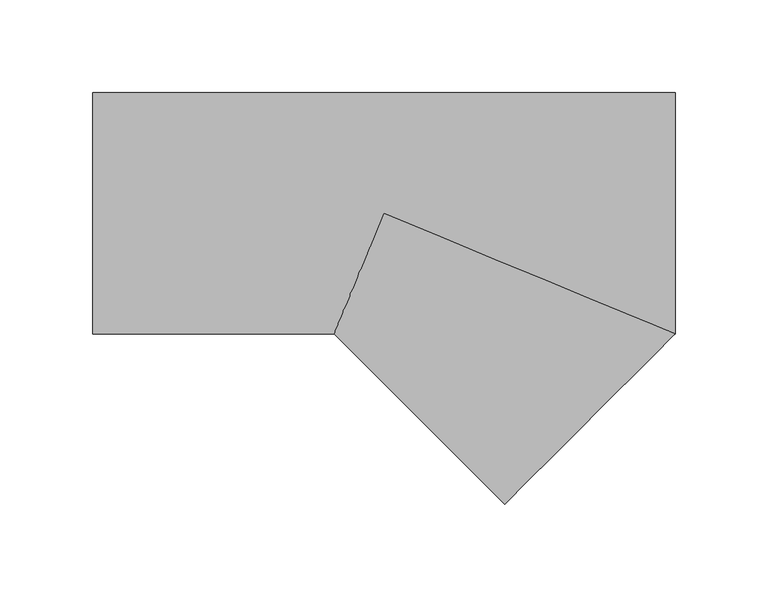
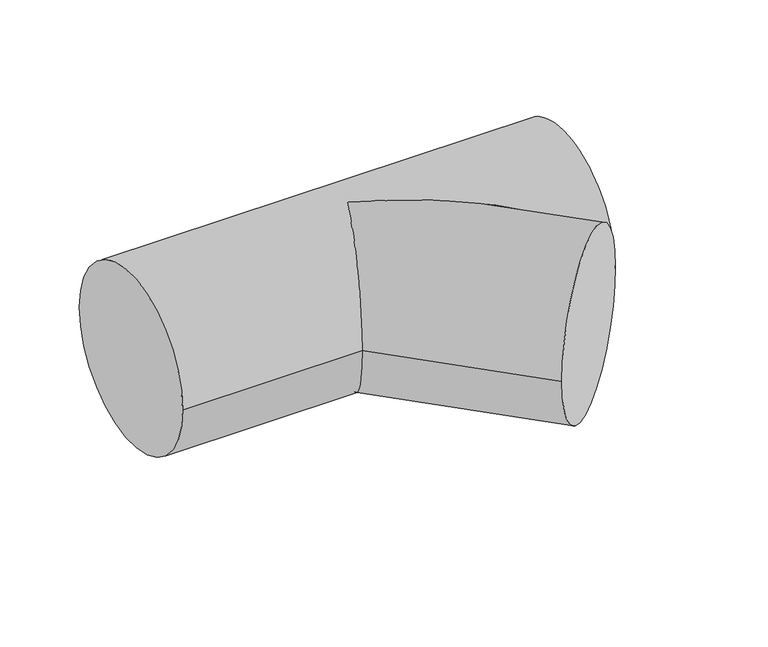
"""IFC4 building model written with IfcOpenShell, lengths in millimetres: pipe fitting geometry, M_Te - Genérica : Estándar."""

from ifc_helpers import new_model, si_unit, frame, origin, place, context, project, spatial, circle_curve, ellipse_curve, source, transform, mapped, element, save
from ifc_brep_helpers import plane_surface, cylinder_surface, advanced_brep


def pipe_fitting_a3851fe6(model_context):
    return source(origin(), model_context, "Body", "AdvancedBrep", [
        advanced_brep(
        [(-157.1351252, -65.0875, 0.0), (-157.1351252, 65.0875, 0.0), (157.1351252, -65.0875, 0.0), (157.1351252, 65.0875, 0.0), (-26.9601252, -65.0875, 0.0), (0.0, 0.0, 65.0875), (0.0, 0.0, -65.0875), (65.0875, -157.1351252, 0.0)],
        [
            (0, 1, circle_curve(frame((-157.1351252, 0.0, 0.0), z_axis=(-1.0, 0.0, 0.0), x_axis=(0.0, 1.0, 0.0)), 65.0875)),
            (1, 0, circle_curve(frame((-157.1351252, 0.0, 0.0), z_axis=(-1.0, 0.0, 0.0), x_axis=(0.0, 1.0, 0.0)), 65.0875)),
            (2, 3, circle_curve(frame((157.1351252, 0.0, 0.0), z_axis=(1.0, 0.0, 0.0), x_axis=(0.0, 1.0, 0.0)), 65.0875)),
            (3, 2, circle_curve(frame((157.1351252, 0.0, 0.0), z_axis=(1.0, 0.0, 0.0), x_axis=(0.0, 1.0, 0.0)), 65.0875)),
            (0, 4),
            (4, 5, ellipse_curve(frame((0.0, 0.0, 0.0), z_axis=(-0.9238795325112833, 0.38268343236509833, 0.0), x_axis=(-0.3826834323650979, -0.9238795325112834, 0.0)), 70.4502023, 65.0875)),
            (5, 2, ellipse_curve(frame((0.0, 0.0, 0.0), z_axis=(0.3826834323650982, 0.9238795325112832, 0.0), x_axis=(-0.9238795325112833, 0.3826834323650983, 0.0)), 170.081834, 65.0875)),
            (3, 1),
            (2, 6, ellipse_curve(frame((0.0, 0.0, 0.0), z_axis=(0.3826834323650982, 0.9238795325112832, 0.0), x_axis=(-0.9238795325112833, 0.3826834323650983, 0.0)), 170.081834, 65.0875)),
            (6, 4, ellipse_curve(frame((0.0, 0.0, 0.0), z_axis=(-0.9238795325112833, 0.38268343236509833, 0.0), x_axis=(-0.3826834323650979, -0.9238795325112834, 0.0)), 70.4502023, 65.0875)),
            (7, 2, circle_curve(frame((111.1113126, -111.1113126, 0.0), z_axis=(0.7071067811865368, -0.7071067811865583, 0.0), x_axis=(0.7071067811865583, 0.7071067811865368, 0.0)), 65.0875)),
            (2, 7, circle_curve(frame((111.1113126, -111.1113126, 0.0), z_axis=(0.7071067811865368, -0.7071067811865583, 0.0), x_axis=(0.7071067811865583, 0.7071067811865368, 0.0)), 65.0875)),
            (4, 7),
        ],
        [
            plane_surface(frame((-157.1351252, 0.0, 0.0), z_axis=(-1.0, 0.0, 0.0), x_axis=(0.0, 0.0, 1.0))),
            plane_surface(frame((157.1351252, 0.0, 0.0), z_axis=(1.0, 0.0, 0.0), x_axis=(0.0, 0.0, 1.0))),
            cylinder_surface(frame((-157.1351252, 0.0, 0.0), z_axis=(-1.0, 0.0, 0.0), x_axis=(0.0, 1.0, 0.0)), 65.0875),
            plane_surface(frame((111.1113126, -111.1113126, 0.0), z_axis=(0.7071067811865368, -0.7071067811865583, 0.0), x_axis=(0.0, 0.0, 1.0))),
            cylinder_surface(frame((0.0, 0.0, 0.0), z_axis=(-0.7071067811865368, 0.7071067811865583, 0.0), x_axis=(0.7071067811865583, 0.7071067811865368, 0.0)), 65.0875),
        ],
        [
            (0, [[1, 2]]),
            (1, [[3, 4]]),
            (2, [[-1, 5, 6, 7, -4, 8]]),
            (2, [[-2, -8, -3, 9, 10, -5]]),
            (3, [[11, 12]]),
            (4, [[-12, -7, -6, 13]]),
            (4, [[-11, -13, -10, -9]]),
        ],
    ),
    ])


if __name__ == "__main__":
    model = new_model("IFC4")
    model_context = context("Model", 3, world=origin())
    ifc_project = project(units=[si_unit("LENGTHUNIT", "METRE", prefix="MILLI")], contexts=[model_context])
    site = spatial("IfcSite", under=ifc_project)
    building = spatial("IfcBuilding", under=site)
    placement = place(None, origin())
    pipe_fitting_shape = pipe_fitting_a3851fe6(model_context)
    element("IfcPipeFitting", 1, ObjectType="M_Te - Genérica : Estándar", at=placement, inside=building, context=model_context, shape_type="MappedRepresentation", body=[
        mapped(pipe_fitting_shape, transform((0.0, 0.0, 0.0), x_axis=(1.0, 0.0, 0.0), y_axis=(0.0, 1.0, 0.0), z_axis=(0.0, 0.0, 1.0))),
    ])
    save(model, "model.ifc")
